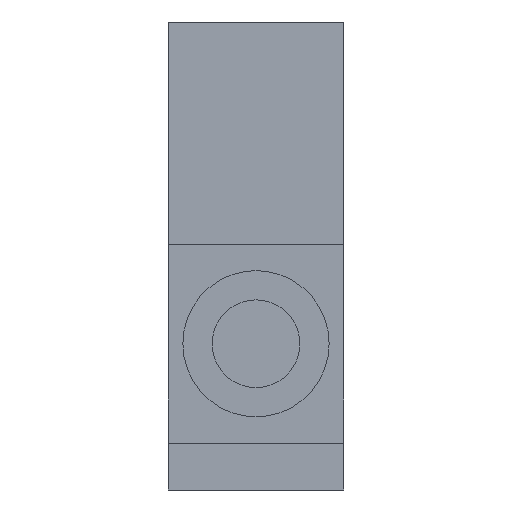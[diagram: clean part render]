
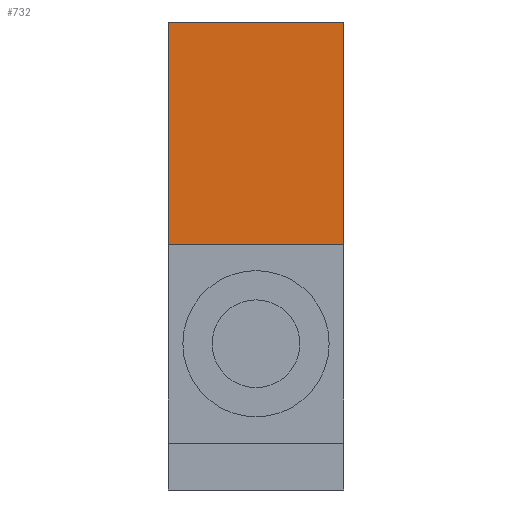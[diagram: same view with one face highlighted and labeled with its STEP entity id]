
A CAD part, front view. The second image highlights one B-rep face of the part: STEP entity #732.
In plain terms, the highlighted planar face has unit normal (0, -1, 0) as drawn and (1, 0, 0) by its records, which use the part's own axes.
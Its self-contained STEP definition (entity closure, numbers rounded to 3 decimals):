
#66 = VERTEX_POINT ( 'NONE', #213 ) ;
#69 = VERTEX_POINT ( 'NONE', #212 ) ;
#72 = EDGE_CURVE ( 'NONE', #69, #66, #688, .T. ) ;
#212 = CARTESIAN_POINT ( 'NONE',  ( 11., -5.5, 1.5 ) ) ;
#213 = CARTESIAN_POINT ( 'NONE',  ( 11., -5.5, -1.5 ) ) ;
#431 = DIRECTION ( 'NONE',  ( -1., 0., 0. ) ) ;
#432 = CARTESIAN_POINT ( 'NONE',  ( 11., -1.7, -1.5 ) ) ;
#433 = AXIS2_PLACEMENT_3D ( 'NONE', #432, #431, #547 ) ;
#434 = FACE_OUTER_BOUND ( 'NONE', #727, .T. ) ;
#439 = PLANE ( 'NONE',  #433 ) ;
#517 = DIRECTION ( 'NONE',  ( 0., -1., 0. ) ) ;
#518 = VECTOR ( 'NONE', #517, 1000. ) ;
#519 = CARTESIAN_POINT ( 'NONE',  ( 11., -1.7, -1.5 ) ) ;
#520 = LINE ( 'NONE', #519, #518 ) ;
#537 = DIRECTION ( 'NONE',  ( 0., 0., -1. ) ) ;
#538 = VECTOR ( 'NONE', #537, 1000. ) ;
#539 = CARTESIAN_POINT ( 'NONE',  ( 11., -1.7, -1.5 ) ) ;
#540 = LINE ( 'NONE', #539, #538 ) ;
#547 = DIRECTION ( 'NONE',  ( 0., 0., 1. ) ) ;
#552 = CARTESIAN_POINT ( 'NONE',  ( 11., -1.7, 1.5 ) ) ;
#553 = DIRECTION ( 'NONE',  ( 0., -1., 0. ) ) ;
#554 = VECTOR ( 'NONE', #553, 1000. ) ;
#555 = CARTESIAN_POINT ( 'NONE',  ( 11., -1.7, 1.5 ) ) ;
#556 = LINE ( 'NONE', #555, #554 ) ;
#557 = CARTESIAN_POINT ( 'NONE',  ( 11., -1.7, -1.5 ) ) ;
#685 = DIRECTION ( 'NONE',  ( 0., 0., -1. ) ) ;
#686 = VECTOR ( 'NONE', #685, 1000. ) ;
#687 = CARTESIAN_POINT ( 'NONE',  ( 11., -5.5, -1.5 ) ) ;
#688 = LINE ( 'NONE', #687, #686 ) ;
#727 = EDGE_LOOP ( 'NONE', ( #764, #769, #737, #739 ) ) ;
#732 = ADVANCED_FACE ( 'NONE', ( #434 ), #439, .F. ) ;
#737 = ORIENTED_EDGE ( 'NONE', *, *, #738, .F. ) ;
#738 = EDGE_CURVE ( 'NONE', #772, #770, #540, .T. ) ;
#739 = ORIENTED_EDGE ( 'NONE', *, *, #771, .T. ) ;
#751 = EDGE_CURVE ( 'NONE', #770, #66, #520, .T. ) ;
#764 = ORIENTED_EDGE ( 'NONE', *, *, #72, .T. ) ;
#769 = ORIENTED_EDGE ( 'NONE', *, *, #751, .F. ) ;
#770 = VERTEX_POINT ( 'NONE', #557 ) ;
#771 = EDGE_CURVE ( 'NONE', #772, #69, #556, .T. ) ;
#772 = VERTEX_POINT ( 'NONE', #552 ) ;
